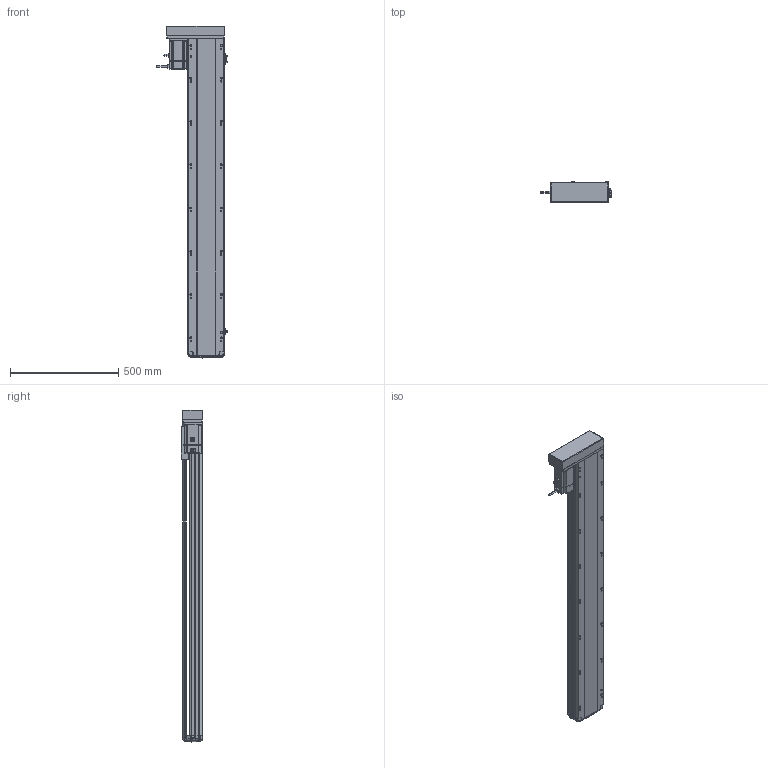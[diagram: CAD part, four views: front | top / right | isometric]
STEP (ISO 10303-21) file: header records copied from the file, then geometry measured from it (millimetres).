
FILE_DESCRIPTION (( 'STEP AP214' ), '1' );
FILE_NAME ('RTH17-XX-1250-R-M75-C4.STEP', '2025-10-24T10:20:19', ( '' ), ( '' ), 'SwSTEP 2.0', 'SolidWorks 2018', '' );
FILE_SCHEMA (( 'AUTOMOTIVE_DESIGN' ));
Length unit declared in the file: millimetre
Products named in the file (10): N_RTH17-GY-001P^RTH17-XX-XX-R-M75-C4（方程式）; N_RTH17-M-007上盖^RTH17-XX-XX-R-M75-C4（方程式）; N_M75^RTH17-XX-XX-R-M75-C4（方程式）; N_OMRON EE-SX672 換覜ん^RTH17-XX-XX-R-M75-C4ㄗ源最宒ㄘ; RTH17-XX-1250-R-M75-C4; N_RTH17-L-008-P75电机安装板左转折^RTH17-XX-XX-R-M75-C4（方程式）; N_RTH-L-012 感应片(外置)^RTH17-XX-XX-R-M75-C4（方程式）; N_RTH17-M-011底座^RTH17-XX-XX-R-M75-C4（方程式）; N_RTH17-L-018盖子^RTH17-XX-XX-R-M75-C4（方程式）; N_RTH17-E-004丝杆螺母连接座^RTH17-XX-XX-R-M75-C4（方程式）
Assembly tree (11 placements, depth 2):
  RTH17-XX-1250-R-M75-C4
    N_RTH17-M-011底座^RTH17-XX-XX-R-M75-C4（方程式）
    N_RTH17-M-007上盖^RTH17-XX-XX-R-M75-C4（方程式）
    N_M75^RTH17-XX-XX-R-M75-C4（方程式）
    N_OMRON EE-SX672 換覜ん^RTH17-XX-XX-R-M75-C4ㄗ源最宒ㄘ  x3
    N_RTH-L-012 感应片(外置)^RTH17-XX-XX-R-M75-C4（方程式）
    N_RTH17-L-008-P75电机安装板左转折^RTH17-XX-XX-R-M75-C4（方程式）
    N_RTH17-L-018盖子^RTH17-XX-XX-R-M75-C4（方程式）
    N_RTH17-E-004丝杆螺母连接座^RTH17-XX-XX-R-M75-C4（方程式）
    N_RTH17-GY-001P^RTH17-XX-XX-R-M75-C4（方程式）
Bounding box: 326.2 x 97 x 1532.99 mm (x, y, z)
Volume: 12993834.9 mm3; surface area: 1624632.2 mm2
Topology: 13 solids, 15 shells, 1789 faces, 4943 edges, 3202 vertices
Faces by surface type: plane 837, cylinder 538, bspline 377, cone 28, torus 9
Entity records: 52717 total; most frequent: CARTESIAN_POINT 21003, ORIENTED_EDGE 6910, DIRECTION 5743, EDGE_CURVE 3459, VERTEX_POINT 2238, AXIS2_PLACEMENT_3D 1945, LINE 1853, VECTOR 1853
